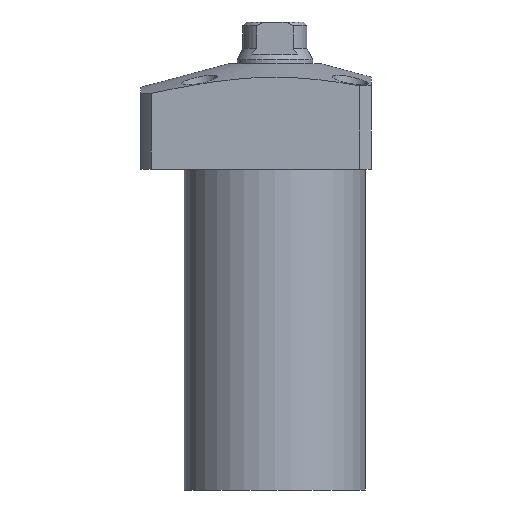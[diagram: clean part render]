
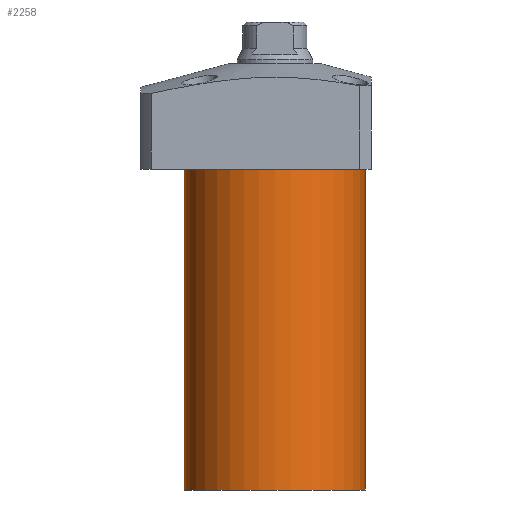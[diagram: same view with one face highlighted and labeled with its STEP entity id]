
A CAD part, front view. The second image highlights one B-rep face of the part: STEP entity #2258.
In plain terms, the highlighted cylindrical face has radius 24 mm (diameter 48 mm), a partial arc.
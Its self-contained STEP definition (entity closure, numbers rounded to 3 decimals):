
#15 = ORIENTED_EDGE ( 'NONE', *, *, #681, .F. ) ;
#248 = CARTESIAN_POINT ( 'NONE',  ( 0., 0., -14. ) ) ;
#288 = EDGE_CURVE ( 'NONE', #1048, #1794, #2338, .T. ) ;
#308 = ORIENTED_EDGE ( 'NONE', *, *, #2450, .F. ) ;
#401 = AXIS2_PLACEMENT_3D ( 'NONE', #248, #442, #2171 ) ;
#442 = DIRECTION ( 'NONE',  ( 0., 0., -1. ) ) ;
#681 = EDGE_CURVE ( 'NONE', #1002, #1752, #1084, .T. ) ;
#702 = CARTESIAN_POINT ( 'NONE',  ( 24., 0., -99. ) ) ;
#767 = FACE_OUTER_BOUND ( 'NONE', #808, .T. ) ;
#777 = ORIENTED_EDGE ( 'NONE', *, *, #1246, .T. ) ;
#808 = EDGE_LOOP ( 'NONE', ( #15, #308, #2308, #777 ) ) ;
#863 = DIRECTION ( 'NONE',  ( 0., 0., -1. ) ) ;
#972 = CARTESIAN_POINT ( 'NONE',  ( 24., 0., -14. ) ) ;
#1002 = VERTEX_POINT ( 'NONE', #2158 ) ;
#1032 = DIRECTION ( 'NONE',  ( 0., 0., 1. ) ) ;
#1035 = CIRCLE ( 'NONE', #1815, 24. ) ;
#1048 = VERTEX_POINT ( 'NONE', #702 ) ;
#1065 = CARTESIAN_POINT ( 'NONE',  ( -24., 0., -14. ) ) ;
#1084 = LINE ( 'NONE', #1908, #1332 ) ;
#1185 = DIRECTION ( 'NONE',  ( 1., 0., 0. ) ) ;
#1197 = CARTESIAN_POINT ( 'NONE',  ( 0., 0., -99. ) ) ;
#1246 = EDGE_CURVE ( 'NONE', #1794, #1752, #2396, .T. ) ;
#1332 = VECTOR ( 'NONE', #2329, 1000. ) ;
#1582 = CYLINDRICAL_SURFACE ( 'NONE', #1783, 24. ) ;
#1662 = CARTESIAN_POINT ( 'NONE',  ( 24., 0., -99. ) ) ;
#1752 = VERTEX_POINT ( 'NONE', #1065 ) ;
#1783 = AXIS2_PLACEMENT_3D ( 'NONE', #2173, #1032, #1185 ) ;
#1794 = VERTEX_POINT ( 'NONE', #972 ) ;
#1815 = AXIS2_PLACEMENT_3D ( 'NONE', #1197, #863, #2401 ) ;
#1908 = CARTESIAN_POINT ( 'NONE',  ( -24., 0., -99. ) ) ;
#2064 = DIRECTION ( 'NONE',  ( 0., 0., 1. ) ) ;
#2158 = CARTESIAN_POINT ( 'NONE',  ( -24., 0., -99. ) ) ;
#2171 = DIRECTION ( 'NONE',  ( 1., 0., 0. ) ) ;
#2173 = CARTESIAN_POINT ( 'NONE',  ( 0., 0., -99. ) ) ;
#2253 = VECTOR ( 'NONE', #2064, 1000. ) ;
#2258 = ADVANCED_FACE ( 'NONE', ( #767 ), #1582, .T. ) ;
#2308 = ORIENTED_EDGE ( 'NONE', *, *, #288, .T. ) ;
#2329 = DIRECTION ( 'NONE',  ( 0., 0., 1. ) ) ;
#2338 = LINE ( 'NONE', #1662, #2253 ) ;
#2396 = CIRCLE ( 'NONE', #401, 24. ) ;
#2401 = DIRECTION ( 'NONE',  ( -1., 0., 0. ) ) ;
#2450 = EDGE_CURVE ( 'NONE', #1048, #1002, #1035, .T. ) ;
